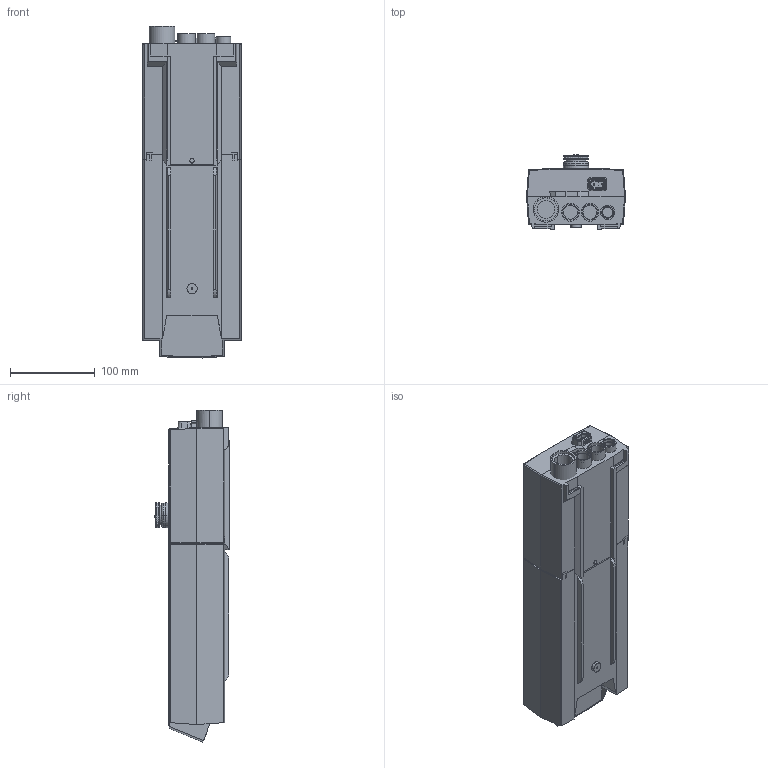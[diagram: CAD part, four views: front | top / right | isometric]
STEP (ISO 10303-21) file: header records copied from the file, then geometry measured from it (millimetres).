
FILE_DESCRIPTION((''),'2;1');
FILE_NAME('CBJ2_ASM','2011-02-25T',('TI'),(''),'PRO/ENGINEER BY PARAMETRIC TECHNOLOGY CORPORATION, 2010280','PRO/ENGINEER BY PARAMETRIC TECHNOLOGY CORPORATION, 2010280','');
FILE_SCHEMA(('CONFIG_CONTROL_DESIGN','SHAPE_APPEARANCE_LAYERS_GROUPS'));
Length unit declared in the file: millimetre
Products named in the file (3): CH2; BAJ1; CBJ2_ASM
Assembly tree (2 placements, depth 2):
  CBJ2_ASM
    CH2
    BAJ1
Bounding box: 117 x 87.91 x 392.68 mm (x, y, z)
Volume: 2646667.8 mm3; surface area: 180780.4 mm2
Topology: 2 solids, 2 shells, 666 faces, 1802 edges, 1155 vertices
Faces by surface type: plane 407, cylinder 199, torus 22, sphere 18, bspline 12, cone 6, extrusion 2
Entity records: 22882 total; most frequent: CARTESIAN_POINT 5098, ORIENTED_EDGE 3560, DIRECTION 3337, EDGE_CURVE 1780, VECTOR 1163, LINE 1161, VERTEX_POINT 1154, AXIS2_PLACEMENT_3D 1087
